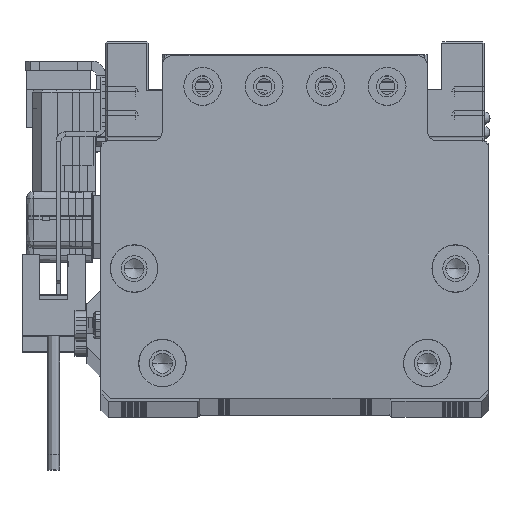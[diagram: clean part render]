
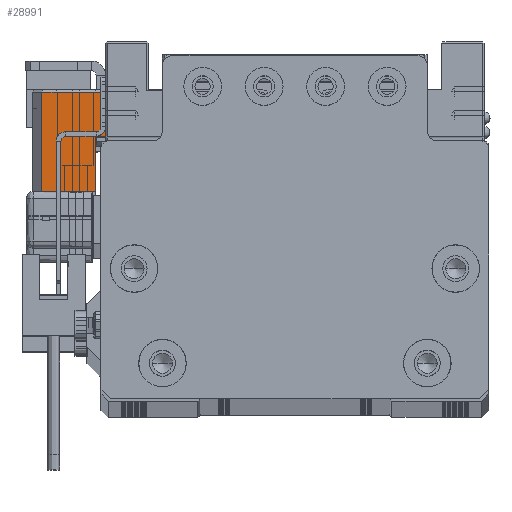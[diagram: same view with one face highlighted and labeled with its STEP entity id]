
A CAD part, top view. The second image highlights one B-rep face of the part: STEP entity #28991.
In plain terms, the highlighted planar face has unit normal (0, 0, 1) as drawn and (1, 0, 0) by its records, which use the part's own axes.
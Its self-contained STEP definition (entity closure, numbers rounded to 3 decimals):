
#1485 = AXIS2_PLACEMENT_3D ( 'NONE', #62391, #25905, #2351 ) ;
#2351 = DIRECTION ( 'NONE',  ( 0., 0., -1. ) ) ;
#3061 = VERTEX_POINT ( 'NONE', #50070 ) ;
#4342 = LINE ( 'NONE', #64770, #75370 ) ;
#5124 = VECTOR ( 'NONE', #12254, 1000. ) ;
#5983 = LINE ( 'NONE', #29936, #5124 ) ;
#9920 = ORIENTED_EDGE ( 'NONE', *, *, #24921, .F. ) ;
#12254 = DIRECTION ( 'NONE',  ( 0., 0., 1. ) ) ;
#12695 = CARTESIAN_POINT ( 'NONE',  ( 17., -10.75, -13.3 ) ) ;
#13335 = PLANE ( 'NONE',  #1485 ) ;
#14512 = LINE ( 'NONE', #18831, #62397 ) ;
#15135 = LINE ( 'NONE', #50513, #39516 ) ;
#15411 = ORIENTED_EDGE ( 'NONE', *, *, #67918, .F. ) ;
#18831 = CARTESIAN_POINT ( 'NONE',  ( 17., -10.75, -15.5 ) ) ;
#18871 = VERTEX_POINT ( 'NONE', #49745 ) ;
#21054 = EDGE_LOOP ( 'NONE', ( #33097, #69283, #44788, #15411, #9920, #38865 ) ) ;
#24921 = EDGE_CURVE ( 'NONE', #73987, #77258, #15135, .T. ) ;
#25905 = DIRECTION ( 'NONE',  ( 1., 0., 0. ) ) ;
#26669 = FACE_OUTER_BOUND ( 'NONE', #21054, .T. ) ;
#27795 = CARTESIAN_POINT ( 'NONE',  ( 17., -10.75, -2. ) ) ;
#28136 = LINE ( 'NONE', #64617, #60049 ) ;
#28991 = ADVANCED_FACE ( 'NONE', ( #26669 ), #13335, .T. ) ;
#29936 = CARTESIAN_POINT ( 'NONE',  ( 17., -10.75, -15.5 ) ) ;
#33097 = ORIENTED_EDGE ( 'NONE', *, *, #56568, .T. ) ;
#33702 = LINE ( 'NONE', #27795, #42836 ) ;
#38746 = CARTESIAN_POINT ( 'NONE',  ( 17., -10.75, -2. ) ) ;
#38773 = EDGE_CURVE ( 'NONE', #3061, #67615, #33702, .T. ) ;
#38865 = ORIENTED_EDGE ( 'NONE', *, *, #66130, .F. ) ;
#39516 = VECTOR ( 'NONE', #62267, 1000. ) ;
#39552 = EDGE_CURVE ( 'NONE', #18871, #3061, #4342, .T. ) ;
#42836 = VECTOR ( 'NONE', #51742, 1000. ) ;
#44788 = ORIENTED_EDGE ( 'NONE', *, *, #38773, .T. ) ;
#48694 = DIRECTION ( 'NONE',  ( 0., 1., 0. ) ) ;
#49270 = CARTESIAN_POINT ( 'NONE',  ( 17., 0.75, -13.3 ) ) ;
#49745 = CARTESIAN_POINT ( 'NONE',  ( 17., 10.25, -15.5 ) ) ;
#50070 = CARTESIAN_POINT ( 'NONE',  ( 17., 10.25, -2. ) ) ;
#50513 = CARTESIAN_POINT ( 'NONE',  ( 17., -10.75, -13.3 ) ) ;
#50769 = VERTEX_POINT ( 'NONE', #67334 ) ;
#51742 = DIRECTION ( 'NONE',  ( 0., -1., 0. ) ) ;
#52249 = DIRECTION ( 'NONE',  ( 0., 0., 1. ) ) ;
#56568 = EDGE_CURVE ( 'NONE', #50769, #18871, #14512, .T. ) ;
#60049 = VECTOR ( 'NONE', #69754, 1000. ) ;
#62267 = DIRECTION ( 'NONE',  ( 0., -1., 0. ) ) ;
#62391 = CARTESIAN_POINT ( 'NONE',  ( 17., -10.75, -15.5 ) ) ;
#62397 = VECTOR ( 'NONE', #48694, 1000. ) ;
#64617 = CARTESIAN_POINT ( 'NONE',  ( 17., 0.75, -15.5 ) ) ;
#64770 = CARTESIAN_POINT ( 'NONE',  ( 17., 10.25, -15.5 ) ) ;
#66130 = EDGE_CURVE ( 'NONE', #50769, #73987, #28136, .T. ) ;
#67334 = CARTESIAN_POINT ( 'NONE',  ( 17., 0.75, -15.5 ) ) ;
#67615 = VERTEX_POINT ( 'NONE', #38746 ) ;
#67918 = EDGE_CURVE ( 'NONE', #77258, #67615, #5983, .T. ) ;
#69283 = ORIENTED_EDGE ( 'NONE', *, *, #39552, .T. ) ;
#69754 = DIRECTION ( 'NONE',  ( 0., 0., 1. ) ) ;
#73987 = VERTEX_POINT ( 'NONE', #49270 ) ;
#75370 = VECTOR ( 'NONE', #52249, 1000. ) ;
#77258 = VERTEX_POINT ( 'NONE', #12695 ) ;
